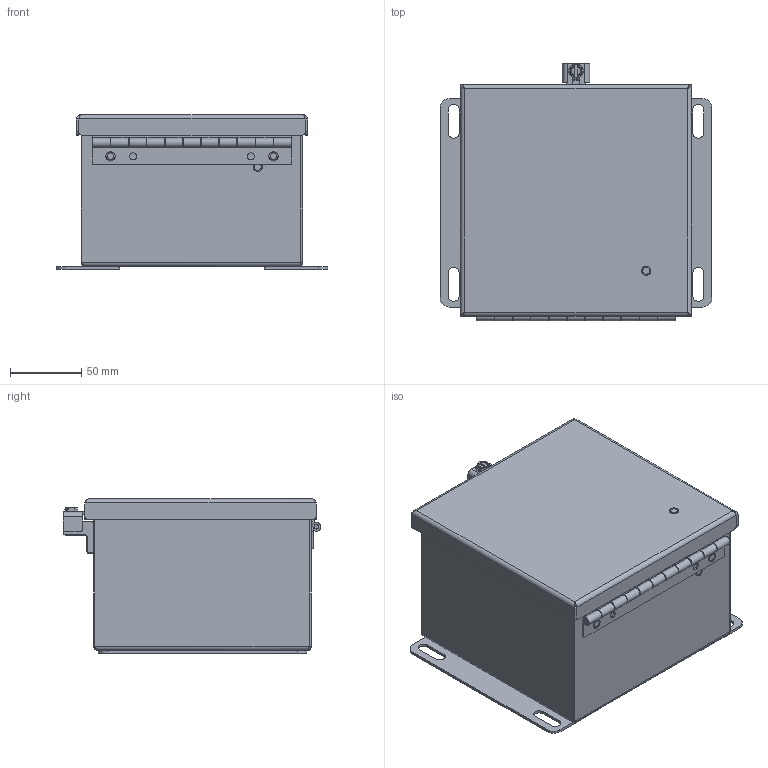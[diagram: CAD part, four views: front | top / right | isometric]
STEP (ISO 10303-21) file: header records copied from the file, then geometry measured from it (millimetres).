
FILE_DESCRIPTION((''),'2;1');
FILE_NAME('MODEL-332_ASM','2024-11-20T15:19:58',('joshi'),('SAGINAW CONTROL & ENGINEERING'),'CREO PARAMETRIC BY PTC INC, 2021284','CREO PARAMETRIC BY PTC INC, 2021284','');
FILE_SCHEMA(('AUTOMOTIVE_DESIGN { 1 0 10303 214 1 1 1 1 }'));
Length unit declared in the file: inch
Products named in the file (22): MODEL-332-BDY; MODEL-332-DR; 100097; 100012; 125828-BASE; 125828-PEM-STUD; 125828-CLAMP; 125828-BOLT; 125828_ASM; 100897; 130026; 122255; MODEL-332-HNG-PN; MODEL-332-HNG-BX; MODEL-332-HNG-DR; 100067; MODEL-332-HNG_ASM; MODEL-332-GSKT; CH-ELJ_SUBPANEL; 102479; CH-ELJ_SUBPANEL-SUBASSEMBLY_ASM; MODEL-332_ASM
Assembly tree (32 placements, depth 3):
  MODEL-332_ASM
    MODEL-332-BDY
    MODEL-332-DR
    100097  x2
    100012  x4
    125828_ASM
      125828-BASE
      125828-PEM-STUD
      125828-CLAMP
      125828-BOLT
    100897  x3
    130026  x2
    122255
    MODEL-332-HNG_ASM
      MODEL-332-HNG-PN
      MODEL-332-HNG-BX
      MODEL-332-HNG-DR
      100067  x2
    MODEL-332-GSKT
    CH-ELJ_SUBPANEL-SUBASSEMBLY_ASM
      CH-ELJ_SUBPANEL
      102479  x4
Bounding box: 190.5 x 180.45 x 108.33 mm (x, y, z)
Volume: 282249.1 mm3; surface area: 344446.7 mm2
Topology: 28 solids, 28 shells, 1259 faces, 3093 edges, 1834 vertices
Faces by surface type: plane 554, cylinder 400, bspline 161, torus 70, cone 38, sphere 36
Entity records: 50817 total; most frequent: CARTESIAN_POINT 18310, ORIENTED_EDGE 4566, DIRECTION 4421, PRESENTATION_STYLE_ASSIGNMENT 2300, STYLED_ITEM 2300, CURVE_STYLE 2283, EDGE_CURVE 2283, AXIS2_PLACEMENT_3D 1549
